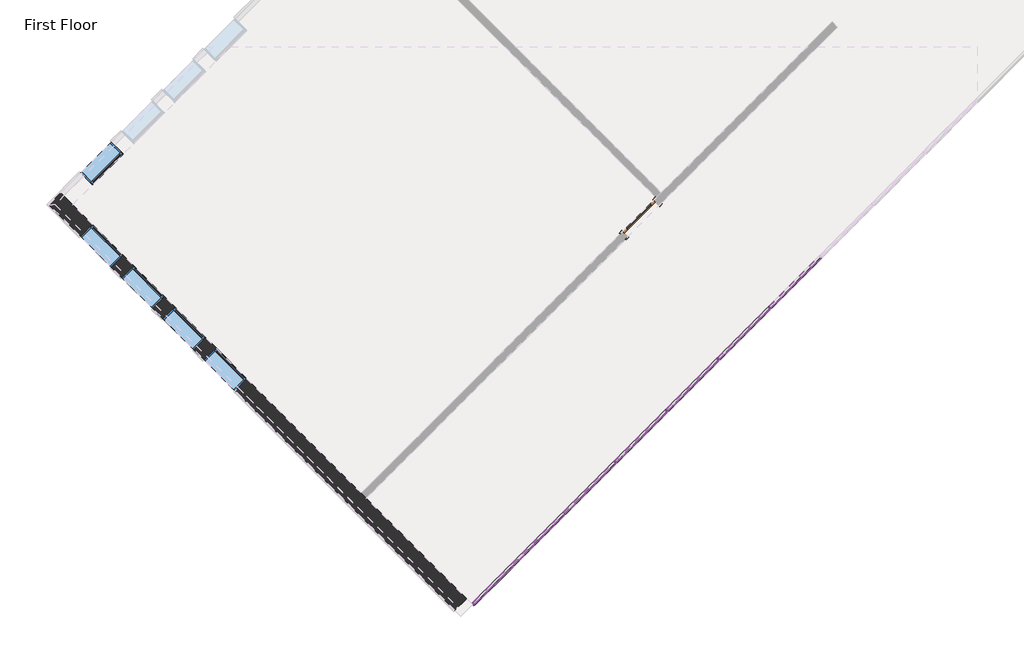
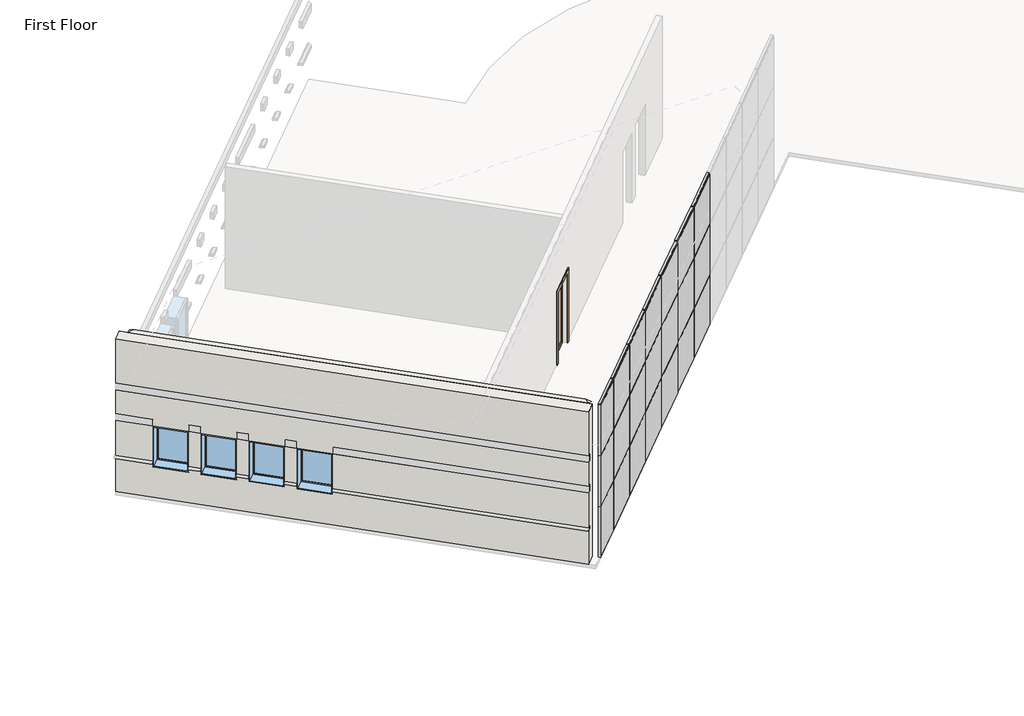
# One storey, part 1 of 5: 49 members, 21 plates, 5 windows, 1 door, 1 wall.
"""IFC4 building model written with IfcOpenShell, lengths in millimetres."""

from ifc_helpers import new_model, si_unit, origin, place, context, project, spatial, faceted_brep, transform, mapped, element, save
from components import door_b81abb0e, member_6121af53, member_155beb68, member_bd80eb51, member_42be4715, member_a3731390, member_b87a50da, system_panel_glazed_da345f4e, system_panel_glazed_f1e4c5b0, system_panel_glazed_b4114ee2, system_panel_glazed_dc791129, system_panel_solid_2f1037e2, system_panel_solid_6e0f4c8d, window_15c49d37, window_0e2fc6ce

model = new_model("IFC4")

# Units and contexts
model_context = context("Model", 3, world=origin())
ifc_project = project(units=[si_unit("LENGTHUNIT", "METRE", prefix="MILLI")], contexts=[model_context])

# Site, building, storey
site = spatial("IfcSite", under=ifc_project)
building = spatial("IfcBuilding", under=site)
storey = spatial("IfcBuildingStorey", under=building, Name="First Floor", Elevation=0.0)

# Door
placement = place(None, origin())
door_shape = door_b81abb0e(model_context)
element("IfcDoor", 1, ObjectType="Single-Glass 1 : 36\" x 84\"", at=placement, inside=storey, context=model_context, shape_type="MappedRepresentation", body=[
    mapped(door_shape, transform((-12027.7718255, -1647.4849877, 0.0), x_axis=(0.7071067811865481, 0.7071067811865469, 0.0), y_axis=(-0.7071067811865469, 0.7071067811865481, 0.0), z_axis=(0.0, 0.0, 1.0))),
])

# Members
member_shape = member_6121af53(model_context)
element("IfcMember", 2, ObjectType="Rectangular Mullion : 1.5\" x 2.5\" Rectangular", at=placement, inside=storey, context=model_context, shape_type="MappedRepresentation", body=[
    mapped(member_shape, transform((-10397.9731218, -4577.4113295, 4572.0), x_axis=(0.0, 0.0, 1.0), y_axis=(-0.7071067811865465, 0.7071067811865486, 0.0), z_axis=(-0.7071067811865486, -0.7071067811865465, 0.0))),
])
element("IfcMember", 3, ObjectType="Rectangular Mullion : 1.5\" x 2.5\" Rectangular", at=placement, inside=storey, context=model_context, shape_type="MappedRepresentation", body=[
    mapped(member_shape, transform((-11475.6038564, -5655.042064, 4572.0), x_axis=(0.0, 0.0, 1.0), y_axis=(-0.7071067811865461, 0.707106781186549, 0.0), z_axis=(-0.7071067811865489, -0.707106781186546, 0.0))),
])
element("IfcMember", 4, ObjectType="Rectangular Mullion : 1.5\" x 2.5\" Rectangular", at=placement, inside=storey, context=model_context, shape_type="MappedRepresentation", body=[
    mapped(member_shape, transform((-12553.2345909, -6732.6727986, 4572.0), x_axis=(0.0, 0.0, 1.0), y_axis=(-0.7071067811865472, 0.7071067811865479, 0.0), z_axis=(-0.7071067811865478, -0.7071067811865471, 0.0))),
])
element("IfcMember", 5, ObjectType="Rectangular Mullion : 1.5\" x 2.5\" Rectangular", at=placement, inside=storey, context=model_context, shape_type="MappedRepresentation", body=[
    mapped(member_shape, transform((-13630.8653254, -7810.3035331, 4572.0), x_axis=(0.0, 0.0, 1.0), y_axis=(-0.7071067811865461, 0.707106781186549, 0.0), z_axis=(-0.707106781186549, -0.7071067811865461, 0.0))),
])
element("IfcMember", 6, ObjectType="Rectangular Mullion : 1.5\" x 2.5\" Rectangular", at=placement, inside=storey, context=model_context, shape_type="MappedRepresentation", body=[
    mapped(member_shape, transform((-14708.4960599, -8887.9342676, 4572.0), x_axis=(0.0, 0.0, 1.0), y_axis=(-0.7071067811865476, 0.7071067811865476, 0.0), z_axis=(-0.7071067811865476, -0.7071067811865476, 0.0))),
])
element("IfcMember", 7, ObjectType="Rectangular Mullion : 1.5\" x 2.5\" Rectangular", at=placement, inside=storey, context=model_context, shape_type="MappedRepresentation", body=[
    mapped(member_shape, transform((-9320.3423873, -3499.780595, 4572.0), x_axis=(0.0, 0.0, 1.0), y_axis=(-0.7071067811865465, 0.7071067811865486, 0.0), z_axis=(-0.7071067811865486, -0.7071067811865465, 0.0))),
])
member_2_shape = member_155beb68(model_context)
element("IfcMember", 8, ObjectType="Rectangular Mullion : 1.5\" x 2.5\" Rectangular", at=placement, inside=storey, context=model_context, shape_type="MappedRepresentation", body=[
    mapped(member_2_shape, transform((-8256.1820369, -2435.6202446, 1524.0), x_axis=(-0.7071067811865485, -0.7071067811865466, 0.0), y_axis=(-0.7071067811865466, 0.7071067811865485, 0.0), z_axis=(0.0, 0.0, -1.0))),
])
element("IfcMember", 9, ObjectType="Rectangular Mullion : 1.5\" x 2.5\" Rectangular", at=placement, inside=storey, context=model_context, shape_type="MappedRepresentation", body=[
    mapped(member_2_shape, transform((-9333.8127715, -3513.2509792, 1524.0), x_axis=(-0.7071067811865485, -0.7071067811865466, 0.0), y_axis=(-0.7071067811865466, 0.7071067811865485, 0.0), z_axis=(0.0, 0.0, -1.0))),
])
element("IfcMember", 10, ObjectType="Rectangular Mullion : 1.5\" x 2.5\" Rectangular", at=placement, inside=storey, context=model_context, shape_type="MappedRepresentation", body=[
    mapped(member_2_shape, transform((-10411.443506, -4590.8817137, 1524.0), x_axis=(-0.7071067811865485, -0.7071067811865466, 0.0), y_axis=(-0.7071067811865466, 0.7071067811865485, 0.0), z_axis=(0.0, 0.0, -1.0))),
])
element("IfcMember", 11, ObjectType="Rectangular Mullion : 1.5\" x 2.5\" Rectangular", at=placement, inside=storey, context=model_context, shape_type="MappedRepresentation", body=[
    mapped(member_2_shape, transform((-11489.0742405, -5668.5124482, 1524.0), x_axis=(-0.7071067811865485, -0.7071067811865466, 0.0), y_axis=(-0.7071067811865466, 0.7071067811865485, 0.0), z_axis=(0.0, 0.0, -1.0))),
])
element("IfcMember", 12, ObjectType="Rectangular Mullion : 1.5\" x 2.5\" Rectangular", at=placement, inside=storey, context=model_context, shape_type="MappedRepresentation", body=[
    mapped(member_2_shape, transform((-12566.7049751, -6746.1431827, 1524.0), x_axis=(-0.7071067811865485, -0.7071067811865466, 0.0), y_axis=(-0.7071067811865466, 0.7071067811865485, 0.0), z_axis=(0.0, 0.0, -1.0))),
])
element("IfcMember", 13, ObjectType="Rectangular Mullion : 1.5\" x 2.5\" Rectangular", at=placement, inside=storey, context=model_context, shape_type="MappedRepresentation", body=[
    mapped(member_2_shape, transform((-13644.3357096, -7823.7739173, 1524.0), x_axis=(-0.7071067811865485, -0.7071067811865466, 0.0), y_axis=(-0.7071067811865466, 0.7071067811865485, 0.0), z_axis=(0.0, 0.0, -1.0))),
])
element("IfcMember", 14, ObjectType="Rectangular Mullion : 1.5\" x 2.5\" Rectangular", at=placement, inside=storey, context=model_context, shape_type="MappedRepresentation", body=[
    mapped(member_2_shape, transform((-14721.9664441, -8901.4046518, 1524.0), x_axis=(-0.7071067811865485, -0.7071067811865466, 0.0), y_axis=(-0.7071067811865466, 0.7071067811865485, 0.0), z_axis=(0.0, 0.0, -1.0))),
])
element("IfcMember", 15, ObjectType="Rectangular Mullion : 1.5\" x 2.5\" Rectangular", at=placement, inside=storey, context=model_context, shape_type="MappedRepresentation", body=[
    mapped(member_2_shape, transform((-9333.8127715, -3513.2509792, 3048.0), x_axis=(-0.7071067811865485, -0.7071067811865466, 0.0), y_axis=(-0.7071067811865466, 0.7071067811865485, 0.0), z_axis=(0.0, 0.0, -1.0))),
])
element("IfcMember", 16, ObjectType="Rectangular Mullion : 1.5\" x 2.5\" Rectangular", at=placement, inside=storey, context=model_context, shape_type="MappedRepresentation", body=[
    mapped(member_2_shape, transform((-10411.443506, -4590.8817137, 3048.0), x_axis=(-0.7071067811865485, -0.7071067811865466, 0.0), y_axis=(-0.7071067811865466, 0.7071067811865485, 0.0), z_axis=(0.0, 0.0, -1.0))),
])
element("IfcMember", 17, ObjectType="Rectangular Mullion : 1.5\" x 2.5\" Rectangular", at=placement, inside=storey, context=model_context, shape_type="MappedRepresentation", body=[
    mapped(member_2_shape, transform((-11489.0742405, -5668.5124482, 3048.0), x_axis=(-0.7071067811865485, -0.7071067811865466, 0.0), y_axis=(-0.7071067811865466, 0.7071067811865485, 0.0), z_axis=(0.0, 0.0, -1.0))),
])
element("IfcMember", 18, ObjectType="Rectangular Mullion : 1.5\" x 2.5\" Rectangular", at=placement, inside=storey, context=model_context, shape_type="MappedRepresentation", body=[
    mapped(member_2_shape, transform((-12566.7049751, -6746.1431827, 3048.0), x_axis=(-0.7071067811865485, -0.7071067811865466, 0.0), y_axis=(-0.7071067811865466, 0.7071067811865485, 0.0), z_axis=(0.0, 0.0, -1.0))),
])
element("IfcMember", 19, ObjectType="Rectangular Mullion : 1.5\" x 2.5\" Rectangular", at=placement, inside=storey, context=model_context, shape_type="MappedRepresentation", body=[
    mapped(member_2_shape, transform((-13644.3357096, -7823.7739173, 3048.0), x_axis=(-0.7071067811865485, -0.7071067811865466, 0.0), y_axis=(-0.7071067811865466, 0.7071067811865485, 0.0), z_axis=(0.0, 0.0, -1.0))),
])
element("IfcMember", 20, ObjectType="Rectangular Mullion : 1.5\" x 2.5\" Rectangular", at=placement, inside=storey, context=model_context, shape_type="MappedRepresentation", body=[
    mapped(member_2_shape, transform((-14721.9664441, -8901.4046518, 3048.0), x_axis=(-0.7071067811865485, -0.7071067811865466, 0.0), y_axis=(-0.7071067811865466, 0.7071067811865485, 0.0), z_axis=(0.0, 0.0, -1.0))),
])
member_3_shape = member_bd80eb51(model_context)
element("IfcMember", 21, ObjectType="Rectangular Mullion : 1.5\" x 2.5\" Rectangular", at=placement, inside=storey, context=model_context, shape_type="MappedRepresentation", body=[
    mapped(member_3_shape, transform((-15523.4543029, -9702.8925106, 4572.0), x_axis=(0.0, 0.0, 1.0), y_axis=(-0.7071067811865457, 0.7071067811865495, 0.0), z_axis=(-0.7071067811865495, -0.7071067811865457, 0.0))),
])
element("IfcMember", 22, ObjectType="Rectangular Mullion : 1.5\" x 2.5\" Rectangular", at=placement, inside=storey, context=model_context, shape_type="MappedRepresentation", body=[
    mapped(member_2_shape, transform((-13644.3357096, -7823.7739173, 0.0), x_axis=(-0.7071067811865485, -0.7071067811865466, 0.0), y_axis=(-0.7071067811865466, 0.7071067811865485, 0.0), z_axis=(0.0, 0.0, -1.0))),
])
element("IfcMember", 23, ObjectType="Rectangular Mullion : 1.5\" x 2.5\" Rectangular", at=placement, inside=storey, context=model_context, shape_type="MappedRepresentation", body=[
    mapped(member_2_shape, transform((-14721.9664441, -8901.4046518, 0.0), x_axis=(-0.7071067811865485, -0.7071067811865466, 0.0), y_axis=(-0.7071067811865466, 0.7071067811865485, 0.0), z_axis=(0.0, 0.0, -1.0))),
])
element("IfcMember", 24, ObjectType="Rectangular Mullion : 1.5\" x 2.5\" Rectangular", at=placement, inside=storey, context=model_context, shape_type="MappedRepresentation", body=[
    mapped(member_2_shape, transform((-9333.8127715, -3513.2509792, 0.0), x_axis=(-0.7071067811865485, -0.7071067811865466, 0.0), y_axis=(-0.7071067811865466, 0.7071067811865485, 0.0), z_axis=(0.0, 0.0, -1.0))),
])
element("IfcMember", 25, ObjectType="Rectangular Mullion : 1.5\" x 2.5\" Rectangular", at=placement, inside=storey, context=model_context, shape_type="MappedRepresentation", body=[
    mapped(member_2_shape, transform((-10411.443506, -4590.8817137, 0.0), x_axis=(-0.7071067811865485, -0.7071067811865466, 0.0), y_axis=(-0.7071067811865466, 0.7071067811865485, 0.0), z_axis=(0.0, 0.0, -1.0))),
])
element("IfcMember", 26, ObjectType="Rectangular Mullion : 1.5\" x 2.5\" Rectangular", at=placement, inside=storey, context=model_context, shape_type="MappedRepresentation", body=[
    mapped(member_2_shape, transform((-11489.0742405, -5668.5124482, 0.0), x_axis=(-0.7071067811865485, -0.7071067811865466, 0.0), y_axis=(-0.7071067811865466, 0.7071067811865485, 0.0), z_axis=(0.0, 0.0, -1.0))),
])
element("IfcMember", 27, ObjectType="Rectangular Mullion : 1.5\" x 2.5\" Rectangular", at=placement, inside=storey, context=model_context, shape_type="MappedRepresentation", body=[
    mapped(member_2_shape, transform((-12566.7049751, -6746.1431827, 0.0), x_axis=(-0.7071067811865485, -0.7071067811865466, 0.0), y_axis=(-0.7071067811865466, 0.7071067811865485, 0.0), z_axis=(0.0, 0.0, -1.0))),
])
member_4_shape = member_42be4715(model_context)
element("IfcMember", 28, ObjectType="Rectangular Mullion : 1.5\" x 2.5\" Rectangular", at=placement, inside=storey, context=model_context, shape_type="MappedRepresentation", body=[
    mapped(member_4_shape, transform((-9320.3423873, -3499.780595, 3048.0), x_axis=(0.0, 0.0, 1.0), y_axis=(-0.7071067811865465, 0.7071067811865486, 0.0), z_axis=(-0.7071067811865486, -0.7071067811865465, 0.0))),
])
element("IfcMember", 29, ObjectType="Rectangular Mullion : 1.5\" x 2.5\" Rectangular", at=placement, inside=storey, context=model_context, shape_type="MappedRepresentation", body=[
    mapped(member_4_shape, transform((-10397.9731218, -4577.4113295, 3048.0), x_axis=(0.0, 0.0, 1.0), y_axis=(-0.7071067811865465, 0.7071067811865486, 0.0), z_axis=(-0.7071067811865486, -0.7071067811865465, 0.0))),
])
element("IfcMember", 30, ObjectType="Rectangular Mullion : 1.5\" x 2.5\" Rectangular", at=placement, inside=storey, context=model_context, shape_type="MappedRepresentation", body=[
    mapped(member_4_shape, transform((-11475.6038564, -5655.042064, 3048.0), x_axis=(0.0, 0.0, 1.0), y_axis=(-0.7071067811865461, 0.707106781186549, 0.0), z_axis=(-0.7071067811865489, -0.707106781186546, 0.0))),
])
element("IfcMember", 31, ObjectType="Rectangular Mullion : 1.5\" x 2.5\" Rectangular", at=placement, inside=storey, context=model_context, shape_type="MappedRepresentation", body=[
    mapped(member_4_shape, transform((-12553.2345909, -6732.6727986, 3048.0), x_axis=(0.0, 0.0, 1.0), y_axis=(-0.7071067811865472, 0.7071067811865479, 0.0), z_axis=(-0.7071067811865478, -0.7071067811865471, 0.0))),
])
element("IfcMember", 32, ObjectType="Rectangular Mullion : 1.5\" x 2.5\" Rectangular", at=placement, inside=storey, context=model_context, shape_type="MappedRepresentation", body=[
    mapped(member_4_shape, transform((-9320.3423873, -3499.780595, 1524.0), x_axis=(0.0, 0.0, 1.0), y_axis=(-0.7071067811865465, 0.7071067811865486, 0.0), z_axis=(-0.7071067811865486, -0.7071067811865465, 0.0))),
])
element("IfcMember", 33, ObjectType="Rectangular Mullion : 1.5\" x 2.5\" Rectangular", at=placement, inside=storey, context=model_context, shape_type="MappedRepresentation", body=[
    mapped(member_4_shape, transform((-10397.9731218, -4577.4113295, 1524.0), x_axis=(0.0, 0.0, 1.0), y_axis=(-0.7071067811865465, 0.7071067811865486, 0.0), z_axis=(-0.7071067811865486, -0.7071067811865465, 0.0))),
])
element("IfcMember", 34, ObjectType="Rectangular Mullion : 1.5\" x 2.5\" Rectangular", at=placement, inside=storey, context=model_context, shape_type="MappedRepresentation", body=[
    mapped(member_4_shape, transform((-11475.6038564, -5655.042064, 1524.0), x_axis=(0.0, 0.0, 1.0), y_axis=(-0.7071067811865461, 0.707106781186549, 0.0), z_axis=(-0.7071067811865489, -0.707106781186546, 0.0))),
])
element("IfcMember", 35, ObjectType="Rectangular Mullion : 1.5\" x 2.5\" Rectangular", at=placement, inside=storey, context=model_context, shape_type="MappedRepresentation", body=[
    mapped(member_4_shape, transform((-12553.2345909, -6732.6727986, 1524.0), x_axis=(0.0, 0.0, 1.0), y_axis=(-0.7071067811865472, 0.7071067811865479, 0.0), z_axis=(-0.7071067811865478, -0.7071067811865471, 0.0))),
])
element("IfcMember", 36, ObjectType="Rectangular Mullion : 1.5\" x 2.5\" Rectangular", at=placement, inside=storey, context=model_context, shape_type="MappedRepresentation", body=[
    mapped(member_4_shape, transform((-13630.8653254, -7810.3035331, 1524.0), x_axis=(0.0, 0.0, 1.0), y_axis=(-0.7071067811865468, 0.7071067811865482, 0.0), z_axis=(-0.7071067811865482, -0.7071067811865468, 0.0))),
])
element("IfcMember", 37, ObjectType="Rectangular Mullion : 1.5\" x 2.5\" Rectangular", at=placement, inside=storey, context=model_context, shape_type="MappedRepresentation", body=[
    mapped(member_4_shape, transform((-14708.4960599, -8887.9342676, 1524.0), x_axis=(0.0, 0.0, 1.0), y_axis=(-0.7071067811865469, 0.7071067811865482, 0.0), z_axis=(-0.7071067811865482, -0.7071067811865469, 0.0))),
])
element("IfcMember", 38, ObjectType="Rectangular Mullion : 1.5\" x 2.5\" Rectangular", at=placement, inside=storey, context=model_context, shape_type="MappedRepresentation", body=[
    mapped(member_4_shape, transform((-13630.8653254, -7810.3035331, 3048.0), x_axis=(0.0, 0.0, 1.0), y_axis=(-0.7071067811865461, 0.707106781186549, 0.0), z_axis=(-0.707106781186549, -0.7071067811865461, 0.0))),
])
element("IfcMember", 39, ObjectType="Rectangular Mullion : 1.5\" x 2.5\" Rectangular", at=placement, inside=storey, context=model_context, shape_type="MappedRepresentation", body=[
    mapped(member_4_shape, transform((-14708.4960599, -8887.9342676, 3048.0), x_axis=(0.0, 0.0, 1.0), y_axis=(-0.7071067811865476, 0.7071067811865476, 0.0), z_axis=(-0.7071067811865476, -0.7071067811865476, 0.0))),
])
element("IfcMember", 40, ObjectType="Rectangular Mullion : 1.5\" x 2.5\" Rectangular", at=placement, inside=storey, context=model_context, shape_type="MappedRepresentation", body=[
    mapped(member_shape, transform((-12580.1753592, -6759.6135669, 0.0), x_axis=(0.0, 0.0, -1.0), y_axis=(-0.7071067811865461, 0.707106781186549, 0.0), z_axis=(0.707106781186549, 0.7071067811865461, 0.0))),
])
element("IfcMember", 41, ObjectType="Rectangular Mullion : 1.5\" x 2.5\" Rectangular", at=placement, inside=storey, context=model_context, shape_type="MappedRepresentation", body=[
    mapped(member_shape, transform((-13657.8060938, -7837.2443014, 0.0), x_axis=(0.0, 0.0, -1.0), y_axis=(-0.7071067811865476, 0.7071067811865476, 0.0), z_axis=(0.7071067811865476, 0.7071067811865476, 0.0))),
])
element("IfcMember", 42, ObjectType="Rectangular Mullion : 1.5\" x 2.5\" Rectangular", at=placement, inside=storey, context=model_context, shape_type="MappedRepresentation", body=[
    mapped(member_shape, transform((-9347.2831557, -3526.7213633, 0.0), x_axis=(0.0, 0.0, -1.0), y_axis=(-0.7071067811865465, 0.7071067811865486, 0.0), z_axis=(0.7071067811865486, 0.7071067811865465, 0.0))),
])
element("IfcMember", 43, ObjectType="Rectangular Mullion : 1.5\" x 2.5\" Rectangular", at=placement, inside=storey, context=model_context, shape_type="MappedRepresentation", body=[
    mapped(member_shape, transform((-10424.9138902, -4604.3520979, 0.0), x_axis=(0.0, 0.0, -1.0), y_axis=(-0.7071067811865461, 0.707106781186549, 0.0), z_axis=(0.7071067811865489, 0.707106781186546, 0.0))),
])
element("IfcMember", 44, ObjectType="Rectangular Mullion : 1.5\" x 2.5\" Rectangular", at=placement, inside=storey, context=model_context, shape_type="MappedRepresentation", body=[
    mapped(member_shape, transform((-11502.5446247, -5681.9828324, 0.0), x_axis=(0.0, 0.0, -1.0), y_axis=(-0.7071067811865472, 0.7071067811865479, 0.0), z_axis=(0.7071067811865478, 0.7071067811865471, 0.0))),
])
element("IfcMember", 45, ObjectType="Rectangular Mullion : 1.5\" x 2.5\" Rectangular", at=placement, inside=storey, context=model_context, shape_type="MappedRepresentation", body=[
    mapped(member_3_shape, transform((-14735.4368283, -8914.875036, 0.0), x_axis=(0.0, 0.0, -1.0), y_axis=(-0.7071067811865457, 0.7071067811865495, 0.0), z_axis=(0.7071067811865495, 0.7071067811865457, 0.0))),
])
member_5_shape = member_a3731390(model_context)
element("IfcMember", 46, ObjectType="Rectangular Mullion : 1.5\" x 2.5\" Rectangular", at=placement, inside=storey, context=model_context, shape_type="MappedRepresentation", body=[
    mapped(member_5_shape, transform((-15523.4543029, -9702.8925106, 1524.0), x_axis=(0.0, 0.0, 1.0), y_axis=(-0.7071067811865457, 0.7071067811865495, 0.0), z_axis=(-0.7071067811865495, -0.7071067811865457, 0.0))),
])
element("IfcMember", 47, ObjectType="Rectangular Mullion : 1.5\" x 2.5\" Rectangular", at=placement, inside=storey, context=model_context, shape_type="MappedRepresentation", body=[
    mapped(member_5_shape, transform((-15523.4543029, -9702.8925106, 3048.0), x_axis=(0.0, 0.0, 1.0), y_axis=(-0.7071067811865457, 0.7071067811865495, 0.0), z_axis=(-0.7071067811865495, -0.7071067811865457, 0.0))),
])
member_6_shape = member_b87a50da(model_context)
element("IfcMember", 48, ObjectType="Rectangular Mullion : 1.5\" x 2.5\" Rectangular", at=placement, inside=storey, context=model_context, shape_type="MappedRepresentation", body=[
    mapped(member_6_shape, transform((-15550.3950713, -9729.833279, 0.0), x_axis=(-0.7071067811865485, -0.7071067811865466, 0.0), y_axis=(-0.7071067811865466, 0.7071067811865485, 0.0), z_axis=(0.0, 0.0, -1.0))),
])
element("IfcMember", 49, ObjectType="Rectangular Mullion : 1.5\" x 2.5\" Rectangular", at=placement, inside=storey, context=model_context, shape_type="MappedRepresentation", body=[
    mapped(member_6_shape, transform((-15550.3950713, -9729.833279, 1524.0), x_axis=(-0.7071067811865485, -0.7071067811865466, 0.0), y_axis=(-0.7071067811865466, 0.7071067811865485, 0.0), z_axis=(0.0, 0.0, -1.0))),
])
element("IfcMember", 50, ObjectType="Rectangular Mullion : 1.5\" x 2.5\" Rectangular", at=placement, inside=storey, context=model_context, shape_type="MappedRepresentation", body=[
    mapped(member_6_shape, transform((-15550.3950713, -9729.833279, 3048.0), x_axis=(-0.7071067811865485, -0.7071067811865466, 0.0), y_axis=(-0.7071067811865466, 0.7071067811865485, 0.0), z_axis=(0.0, 0.0, -1.0))),
])

# Plates
system_panel_glazed_shape = system_panel_glazed_da345f4e(model_context)
element("IfcPlate", 51, ObjectType="System Panel : Glazed", at=placement, inside=storey, context=model_context, shape_type="MappedRepresentation", body=[
    mapped(system_panel_glazed_shape, transform((-8794.9974042, -2974.4356119, 38.1), x_axis=(-0.7071067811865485, -0.7071067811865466, 0.0), y_axis=(0.7071067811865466, -0.7071067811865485, 0.0), z_axis=(0.0, 0.0, 1.0))),
])
element("IfcPlate", 52, ObjectType="System Panel : Glazed", at=placement, inside=storey, context=model_context, shape_type="MappedRepresentation", body=[
    mapped(system_panel_glazed_shape, transform((-9872.6281387, -4052.0663464, 38.1), x_axis=(-0.7071067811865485, -0.7071067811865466, 0.0), y_axis=(0.7071067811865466, -0.7071067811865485, 0.0), z_axis=(0.0, 0.0, 1.0))),
])
element("IfcPlate", 53, ObjectType="System Panel : Glazed", at=placement, inside=storey, context=model_context, shape_type="MappedRepresentation", body=[
    mapped(system_panel_glazed_shape, transform((-10950.2588733, -5129.6970809, 38.1), x_axis=(-0.7071067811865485, -0.7071067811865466, 0.0), y_axis=(0.7071067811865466, -0.7071067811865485, 0.0), z_axis=(0.0, 0.0, 1.0))),
])
element("IfcPlate", 54, ObjectType="System Panel : Glazed", at=placement, inside=storey, context=model_context, shape_type="MappedRepresentation", body=[
    mapped(system_panel_glazed_shape, transform((-12027.8896078, -6207.3278155, 38.1), x_axis=(-0.7071067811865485, -0.7071067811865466, 0.0), y_axis=(0.7071067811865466, -0.7071067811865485, 0.0), z_axis=(0.0, 0.0, 1.0))),
])
element("IfcPlate", 55, ObjectType="System Panel : Glazed", at=placement, inside=storey, context=model_context, shape_type="MappedRepresentation", body=[
    mapped(system_panel_glazed_shape, transform((-13105.5203423, -7284.95855, 38.1), x_axis=(-0.7071067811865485, -0.7071067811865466, 0.0), y_axis=(0.7071067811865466, -0.7071067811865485, 0.0), z_axis=(0.0, 0.0, 1.0))),
])
element("IfcPlate", 56, ObjectType="System Panel : Glazed", at=placement, inside=storey, context=model_context, shape_type="MappedRepresentation", body=[
    mapped(system_panel_glazed_shape, transform((-14183.1510769, -8362.5892845, 38.1), x_axis=(-0.7071067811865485, -0.7071067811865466, 0.0), y_axis=(0.7071067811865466, -0.7071067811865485, 0.0), z_axis=(0.0, 0.0, 1.0))),
])
system_panel_glazed_2_shape = system_panel_glazed_f1e4c5b0(model_context)
element("IfcPlate", 57, ObjectType="System Panel : Glazed", at=placement, inside=storey, context=model_context, shape_type="MappedRepresentation", body=[
    mapped(system_panel_glazed_2_shape, transform((-8794.9974042, -2974.4356119, 1543.05), x_axis=(-0.7071067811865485, -0.7071067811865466, 0.0), y_axis=(0.7071067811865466, -0.7071067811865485, 0.0), z_axis=(0.0, 0.0, 1.0))),
])
element("IfcPlate", 58, ObjectType="System Panel : Glazed", at=placement, inside=storey, context=model_context, shape_type="MappedRepresentation", body=[
    mapped(system_panel_glazed_2_shape, transform((-9872.6281387, -4052.0663464, 1543.05), x_axis=(-0.7071067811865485, -0.7071067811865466, 0.0), y_axis=(0.7071067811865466, -0.7071067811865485, 0.0), z_axis=(0.0, 0.0, 1.0))),
])
element("IfcPlate", 59, ObjectType="System Panel : Glazed", at=placement, inside=storey, context=model_context, shape_type="MappedRepresentation", body=[
    mapped(system_panel_glazed_2_shape, transform((-10950.2588733, -5129.6970809, 1543.05), x_axis=(-0.7071067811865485, -0.7071067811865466, 0.0), y_axis=(0.7071067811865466, -0.7071067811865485, 0.0), z_axis=(0.0, 0.0, 1.0))),
])
element("IfcPlate", 60, ObjectType="System Panel : Glazed", at=placement, inside=storey, context=model_context, shape_type="MappedRepresentation", body=[
    mapped(system_panel_glazed_2_shape, transform((-12027.8896078, -6207.3278155, 1543.05), x_axis=(-0.7071067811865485, -0.7071067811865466, 0.0), y_axis=(0.7071067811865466, -0.7071067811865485, 0.0), z_axis=(0.0, 0.0, 1.0))),
])
element("IfcPlate", 61, ObjectType="System Panel : Glazed", at=placement, inside=storey, context=model_context, shape_type="MappedRepresentation", body=[
    mapped(system_panel_glazed_2_shape, transform((-13105.5203423, -7284.95855, 1543.05), x_axis=(-0.7071067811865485, -0.7071067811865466, 0.0), y_axis=(0.7071067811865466, -0.7071067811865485, 0.0), z_axis=(0.0, 0.0, 1.0))),
])
element("IfcPlate", 62, ObjectType="System Panel : Glazed", at=placement, inside=storey, context=model_context, shape_type="MappedRepresentation", body=[
    mapped(system_panel_glazed_2_shape, transform((-14183.1510769, -8362.5892845, 1543.05), x_axis=(-0.7071067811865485, -0.7071067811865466, 0.0), y_axis=(0.7071067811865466, -0.7071067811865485, 0.0), z_axis=(0.0, 0.0, 1.0))),
])
system_panel_glazed_3_shape = system_panel_glazed_b4114ee2(model_context)
element("IfcPlate", 63, ObjectType="System Panel : Glazed", at=placement, inside=storey, context=model_context, shape_type="MappedRepresentation", body=[
    mapped(system_panel_glazed_3_shape, transform((-15129.4455656, -9308.8837733, 38.1), x_axis=(-0.7071067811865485, -0.7071067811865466, 0.0), y_axis=(0.7071067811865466, -0.7071067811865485, 0.0), z_axis=(0.0, 0.0, 1.0))),
])
system_panel_glazed_4_shape = system_panel_glazed_dc791129(model_context)
element("IfcPlate", 64, ObjectType="System Panel : Glazed", at=placement, inside=storey, context=model_context, shape_type="MappedRepresentation", body=[
    mapped(system_panel_glazed_4_shape, transform((-15129.4455656, -9308.8837733, 1543.05), x_axis=(-0.7071067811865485, -0.7071067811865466, 0.0), y_axis=(0.7071067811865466, -0.7071067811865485, 0.0), z_axis=(0.0, 0.0, 1.0))),
])
system_panel_solid_shape = system_panel_solid_2f1037e2(model_context)
element("IfcPlate", 65, ObjectType="System Panel : Solid", at=placement, inside=storey, context=model_context, shape_type="MappedRepresentation", body=[
    mapped(system_panel_solid_shape, transform((-8794.9974042, -2974.4356119, 3067.05), x_axis=(-0.7071067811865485, -0.7071067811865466, 0.0), y_axis=(0.7071067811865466, -0.7071067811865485, 0.0), z_axis=(0.0, 0.0, 1.0))),
])
element("IfcPlate", 66, ObjectType="System Panel : Solid", at=placement, inside=storey, context=model_context, shape_type="MappedRepresentation", body=[
    mapped(system_panel_solid_shape, transform((-9872.6281387, -4052.0663464, 3067.05), x_axis=(-0.7071067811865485, -0.7071067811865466, 0.0), y_axis=(0.7071067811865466, -0.7071067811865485, 0.0), z_axis=(0.0, 0.0, 1.0))),
])
element("IfcPlate", 67, ObjectType="System Panel : Solid", at=placement, inside=storey, context=model_context, shape_type="MappedRepresentation", body=[
    mapped(system_panel_solid_shape, transform((-10950.2588733, -5129.6970809, 3067.05), x_axis=(-0.7071067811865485, -0.7071067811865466, 0.0), y_axis=(0.7071067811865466, -0.7071067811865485, 0.0), z_axis=(0.0, 0.0, 1.0))),
])
element("IfcPlate", 68, ObjectType="System Panel : Solid", at=placement, inside=storey, context=model_context, shape_type="MappedRepresentation", body=[
    mapped(system_panel_solid_shape, transform((-12027.8896078, -6207.3278155, 3067.05), x_axis=(-0.7071067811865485, -0.7071067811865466, 0.0), y_axis=(0.7071067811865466, -0.7071067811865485, 0.0), z_axis=(0.0, 0.0, 1.0))),
])
element("IfcPlate", 69, ObjectType="System Panel : Solid", at=placement, inside=storey, context=model_context, shape_type="MappedRepresentation", body=[
    mapped(system_panel_solid_shape, transform((-13105.5203423, -7284.95855, 3067.05), x_axis=(-0.7071067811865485, -0.7071067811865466, 0.0), y_axis=(0.7071067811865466, -0.7071067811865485, 0.0), z_axis=(0.0, 0.0, 1.0))),
])
element("IfcPlate", 70, ObjectType="System Panel : Solid", at=placement, inside=storey, context=model_context, shape_type="MappedRepresentation", body=[
    mapped(system_panel_solid_shape, transform((-14183.1510769, -8362.5892845, 3067.05), x_axis=(-0.7071067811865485, -0.7071067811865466, 0.0), y_axis=(0.7071067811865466, -0.7071067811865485, 0.0), z_axis=(0.0, 0.0, 1.0))),
])
system_panel_solid_2_shape = system_panel_solid_6e0f4c8d(model_context)
element("IfcPlate", 71, ObjectType="System Panel : Solid", at=placement, inside=storey, context=model_context, shape_type="MappedRepresentation", body=[
    mapped(system_panel_solid_2_shape, transform((-15129.4455656, -9308.8837733, 3067.05), x_axis=(-0.7071067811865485, -0.7071067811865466, 0.0), y_axis=(0.7071067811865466, -0.7071067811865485, 0.0), z_axis=(0.0, 0.0, 1.0))),
])

# Wall
element("IfcWall", 72, ObjectType="Exterior - Split Face and CMU on Mtl. Stud", at=placement, inside=storey, context=model_context, shape_type="Brep", body=[
    faceted_brep([(-15924.1982323, -9854.4343326, 0.0), (-15674.996125, -9605.2322253, 0.0), (-15674.996125, -9605.2322253, 4572.0), (-15924.1982323, -9854.4343326, 4572.0), (-15924.1982323, -9854.4343326, 3251.2), (-15859.0913754, -9789.3274758, 3251.2), (-15859.0913754, -9789.3274758, 3048.0), (-15924.1982323, -9854.4343326, 3048.0), (-15924.1982323, -9854.4343326, 2336.8), (-15859.0913754, -9789.3274758, 2336.8), (-15859.0913754, -9789.3274758, 2133.6), (-15924.1982323, -9854.4343326, 2133.6), (-15924.1982323, -9854.4343326, 1085.85), (-15859.0913754, -9789.3274758, 1085.85), (-15859.0913754, -9789.3274758, 1016.0), (-15924.1982323, -9854.4343326, 1016.0), (-17775.2535253, -7504.974825, 0.0), (-17885.2616628, -7394.9666875, 0.0), (-23922.2388402, -1357.9895101, 0.0), (-24171.4409475, -1108.7874027, 0.0), (-24171.4409475, -1108.7874027, 1016.0), (-24106.3340906, -1173.8942596, 1016.0), (-24106.3340906, -1173.8942596, 1085.85), (-24171.4409475, -1108.7874027, 1085.85), (-24171.4409475, -1108.7874027, 2133.6), (-24106.3340906, -1173.8942596, 2133.6), (-24106.3340906, -1173.8942596, 2336.8), (-24171.4409475, -1108.7874027, 2336.8), (-24171.4409475, -1108.7874027, 3048.0), (-24106.3340906, -1173.8942596, 3048.0), (-24106.3340906, -1173.8942596, 3251.2), (-24171.4409475, -1108.7874027, 3251.2), (-24171.4409475, -1108.7874027, 4572.0), (-23922.2388402, -1357.9895101, 4572.0), (-20921.7107637, -4358.5175865, 2133.6), (-20921.7107637, -4358.5175865, 914.4), (-20275.132323, -5005.0960273, 914.4), (-20275.132323, -5005.0960273, 2133.6), (-21783.8153513, -3496.4129989, 2133.6), (-21783.8153513, -3496.4129989, 914.4), (-21137.2369106, -4142.9914396, 914.4), (-21137.2369106, -4142.9914396, 2133.6), (-22645.9199389, -2634.3084113, 2133.6), (-22645.9199389, -2634.3084113, 914.4), (-21999.3414982, -3280.886852, 914.4), (-21999.3414982, -3280.886852, 2133.6), (-23508.0245266, -1772.2038237, 2133.6), (-23508.0245266, -1772.2038237, 914.4), (-22861.4460859, -2418.7822644, 914.4), (-22861.4460859, -2418.7822644, 2133.6), (-24420.6430549, -1357.9895101, 0.0), (-20524.3344303, -5254.2981346, 1016.0), (-20524.3344303, -5254.2981346, 914.4), (-21170.9128711, -4607.7196939, 914.4), (-21170.9128711, -4607.7196939, 1016.0), (-21386.439018, -4392.193547, 1016.0), (-21386.439018, -4392.193547, 914.4), (-22033.0174587, -3745.6151063, 914.4), (-22033.0174587, -3745.6151063, 1016.0), (-22248.5436056, -3530.0889594, 1016.0), (-22248.5436056, -3530.0889594, 914.4), (-22895.1220463, -2883.5105187, 914.4), (-22895.1220463, -2883.5105187, 1016.0), (-23110.6481932, -2667.9843718, 1016.0), (-23110.6481932, -2667.9843718, 914.4), (-23757.2266339, -2021.405931, 914.4), (-23757.2266339, -2021.405931, 1016.0), (-24420.6430549, -1357.9895101, 1016.0), (-21170.9128711, -4607.7196939, 2133.6), (-20524.3344303, -5254.2981346, 2133.6), (-20524.3344303, -5254.2981346, 2336.8), (-24420.6430549, -1357.9895101, 3048.0), (-24420.6430549, -1357.9895101, 2336.8), (-23757.2266339, -2021.405931, 2336.8), (-23757.2266339, -2021.405931, 2133.6), (-23110.6481932, -2667.9843718, 2133.6), (-23110.6481932, -2667.9843718, 2336.8), (-22895.1220463, -2883.5105187, 2336.8), (-22895.1220463, -2883.5105187, 2133.6), (-22248.5436056, -3530.0889594, 2133.6), (-22248.5436056, -3530.0889594, 2336.8), (-22033.0174587, -3745.6151063, 2336.8), (-22033.0174587, -3745.6151063, 2133.6), (-21386.439018, -4392.193547, 2133.6), (-21386.439018, -4392.193547, 2336.8), (-21170.9128711, -4607.7196939, 2336.8), (-20524.3344303, -5254.2981346, 1085.85), (-21170.9128711, -4607.7196939, 1085.85), (-21386.439018, -4392.193547, 1085.85), (-22033.0174587, -3745.6151063, 1085.85), (-22248.5436056, -3530.0889594, 1085.85), (-22895.1220463, -2883.5105187, 1085.85), (-23110.6481932, -2667.9843718, 1085.85), (-23757.2266339, -2021.405931, 1085.85), (-24420.6430549, -1357.9895101, 2133.6), (-24420.6430549, -1357.9895101, 1085.85), (-24420.6430549, -1357.9895101, 4572.0), (-24420.6430549, -1357.9895101, 3251.2), (-21105.8060142, -4542.612837, 2133.6), (-21105.8060142, -4542.612837, 1085.85), (-21105.8060142, -4542.612837, 1016.0), (-20459.2275735, -5189.1912777, 1016.0), (-20459.2275735, -5189.1912777, 1085.85), (-20459.2275735, -5189.1912777, 2133.6), (-21967.9106018, -3680.5082494, 2133.6), (-21967.9106018, -3680.5082494, 1085.85), (-21967.9106018, -3680.5082494, 1016.0), (-21321.3321611, -4327.0866901, 1016.0), (-21321.3321611, -4327.0866901, 1085.85), (-21321.3321611, -4327.0866901, 2133.6), (-22830.0151894, -2818.4036618, 2133.6), (-22830.0151894, -2818.4036618, 1085.85), (-22830.0151894, -2818.4036618, 1016.0), (-22183.4367487, -3464.9821025, 1016.0), (-22183.4367487, -3464.9821025, 1085.85), (-22183.4367487, -3464.9821025, 2133.6), (-23692.119777, -1956.2990742, 2133.6), (-23692.119777, -1956.2990742, 1085.85), (-23692.119777, -1956.2990742, 1016.0), (-23045.5413363, -2602.8775149, 1016.0), (-23045.5413363, -2602.8775149, 1085.85), (-23045.5413363, -2602.8775149, 2133.6), (-24290.4293411, -1357.9895101, 1085.85), (-24290.4293411, -1357.9895101, 1016.0), (-20459.2275735, -5189.1912777, 2336.8), (-20459.2275735, -5189.1912777, 2133.6), (-21105.8060142, -4542.612837, 2133.6), (-21105.8060142, -4542.612837, 2336.8), (-21321.3321611, -4327.0866901, 2336.8), (-21321.3321611, -4327.0866901, 2133.6), (-21967.9106018, -3680.5082494, 2133.6), (-21967.9106018, -3680.5082494, 2336.8), (-22183.4367487, -3464.9821025, 2336.8), (-22183.4367487, -3464.9821025, 2133.6), (-22830.0151894, -2818.4036618, 2133.6), (-22830.0151894, -2818.4036618, 2336.8), (-23045.5413363, -2602.8775149, 2336.8), (-23045.5413363, -2602.8775149, 2133.6), (-23692.119777, -1956.2990742, 2133.6), (-23692.119777, -1956.2990742, 2336.8), (-24290.4293411, -1357.9895101, 2133.6), (-24290.4293411, -1357.9895101, 2336.8), (-24290.4293411, -1357.9895101, 3048.0), (-24290.4293411, -1357.9895101, 3251.2)], [[[0, 1, 2, 3, 4, 5, 6, 7, 8, 9, 10, 11, 12, 13, 14, 15]], [[1, 16, 17, 18, 19, 20, 21, 22, 23, 24, 25, 26, 27, 28, 29, 30, 31, 32, 33, 2], [34, 35, 36, 37], [38, 39, 40, 41], [42, 43, 44, 45], [46, 47, 48, 49]], [[50, 0, 15, 51, 52, 53, 54, 55, 56, 57, 58, 59, 60, 61, 62, 63, 64, 65, 66, 67]], [[68, 69, 70, 8, 7, 71, 72, 73, 74, 75, 76, 77, 78, 79, 80, 81, 82, 83, 84, 85]], [[69, 86, 12, 11]], [[87, 68, 83, 88]], [[89, 82, 79, 90]], [[91, 78, 75, 92]], [[93, 74, 94, 95]], [[96, 97, 4, 3]], [[19, 50, 67, 20]], [[23, 95, 94, 24]], [[27, 72, 71, 28]], [[32, 31, 97, 96]], [[19, 18, 17, 16, 1, 0, 50]], [[35, 34, 98, 68, 87, 99, 100, 54, 53]], [[36, 35, 53, 52]], [[37, 36, 52, 51, 101, 102, 86, 69, 103]], [[34, 37, 103, 69, 68, 98]], [[39, 38, 104, 82, 89, 105, 106, 58, 57]], [[40, 39, 57, 56]], [[41, 40, 56, 55, 107, 108, 88, 83, 109]], [[38, 41, 109, 83, 82, 104]], [[43, 42, 110, 78, 91, 111, 112, 62, 61]], [[44, 43, 61, 60]], [[45, 44, 60, 59, 113, 114, 90, 79, 115]], [[42, 45, 115, 79, 78, 110]], [[47, 46, 116, 74, 93, 117, 118, 66, 65]], [[48, 47, 65, 64]], [[49, 48, 64, 63, 119, 120, 92, 75, 121]], [[46, 49, 121, 75, 74, 116]], [[102, 13, 12, 86]], [[14, 101, 51, 15]], [[13, 102, 101, 14]], [[108, 99, 87, 88]], [[100, 107, 55, 54]], [[99, 108, 107, 100]], [[114, 105, 89, 90]], [[106, 113, 59, 58]], [[105, 114, 113, 106]], [[120, 111, 91, 92]], [[112, 119, 63, 62]], [[111, 120, 119, 112]], [[122, 117, 93, 95, 23, 22]], [[118, 123, 21, 20, 67, 66]], [[117, 122, 123, 118]], [[123, 122, 22, 21]], [[124, 70, 69, 125]], [[125, 69, 11, 10]], [[124, 125, 10, 9]], [[70, 124, 9, 8]], [[126, 68, 85, 127]], [[128, 84, 83, 129]], [[68, 126, 129, 83]], [[126, 127, 128, 129]], [[127, 85, 84, 128]], [[130, 82, 81, 131]], [[132, 80, 79, 133]], [[82, 130, 133, 79]], [[130, 131, 132, 133]], [[131, 81, 80, 132]], [[134, 78, 77, 135]], [[136, 76, 75, 137]], [[78, 134, 137, 75]], [[134, 135, 136, 137]], [[135, 77, 76, 136]], [[138, 74, 73, 139]], [[74, 138, 140, 25, 24, 94]], [[138, 139, 141, 140]], [[139, 73, 72, 27, 26, 141]], [[140, 141, 26, 25]], [[6, 142, 29, 28, 71, 7]], [[142, 6, 5, 143]], [[143, 5, 4, 97, 31, 30]], [[142, 143, 30, 29]], [[3, 2, 33, 32, 96]]]),
    faceted_brep([(-23922.2388402, -1357.9895101, 4689.475), (-15799.5971786, -9480.6311716, 4689.475), (-15693.3648307, -9586.8635196, 4639.3965909), (-23922.2388402, -1357.9895101, 4639.3965909), (-23997.6295387, -1282.5988115, 4653.9354839), (-15799.5971786, -9631.4125687, 4653.9354839), (-24073.0202373, -1357.9895101, 4653.9354839)], [[[0, 1, 2, 3, 4]], [[2, 1, 5]], [[1, 0, 6, 5]], [[0, 4, 6]], [[6, 3, 2, 5]], [[3, 6, 4]]]),
])

# Windows
window_shape = window_15c49d37(model_context)
element("IfcWindow", 73, ObjectType="Fixed : 36\" x 48\"", at=placement, inside=storey, context=model_context, shape_type="MappedRepresentation", body=[
    mapped(window_shape, transform((-23336.2771283, -522.8256908, 0.0), x_axis=(-0.7071067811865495, -0.7071067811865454, 0.0), y_axis=(0.7071067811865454, -0.7071067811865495, 0.0), z_axis=(0.0, 0.0, 1.0))),
])
window_2_shape = window_0e2fc6ce(model_context)
element("IfcWindow", 74, ObjectType="Fixed : 36\" x 48\"", at=placement, inside=storey, context=model_context, shape_type="MappedRepresentation", body=[
    mapped(window_2_shape, transform((-23336.2771283, -2193.1533294, 0.0), x_axis=(-0.7071067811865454, 0.7071067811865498, 0.0), y_axis=(-0.7071067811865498, -0.7071067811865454, 0.0), z_axis=(0.0, 0.0, 1.0))),
])
element("IfcWindow", 75, ObjectType="Fixed : 36\" x 48\"", at=placement, inside=storey, context=model_context, shape_type="MappedRepresentation", body=[
    mapped(window_2_shape, transform((-22474.1725406, -3055.257917, 0.0), x_axis=(-0.7071067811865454, 0.7071067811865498, 0.0), y_axis=(-0.7071067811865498, -0.7071067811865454, 0.0), z_axis=(0.0, 0.0, 1.0))),
])
element("IfcWindow", 76, ObjectType="Fixed : 36\" x 48\"", at=placement, inside=storey, context=model_context, shape_type="MappedRepresentation", body=[
    mapped(window_2_shape, transform((-21612.067953, -3917.3625046, 0.0), x_axis=(-0.7071067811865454, 0.7071067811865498, 0.0), y_axis=(-0.7071067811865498, -0.7071067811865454, 0.0), z_axis=(0.0, 0.0, 1.0))),
])
element("IfcWindow", 77, ObjectType="Fixed : 36\" x 48\"", at=placement, inside=storey, context=model_context, shape_type="MappedRepresentation", body=[
    mapped(window_2_shape, transform((-20749.9633654, -4779.4670922, 0.0), x_axis=(-0.7071067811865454, 0.7071067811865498, 0.0), y_axis=(-0.7071067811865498, -0.7071067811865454, 0.0), z_axis=(0.0, 0.0, 1.0))),
])

save(model, "model.ifc")
